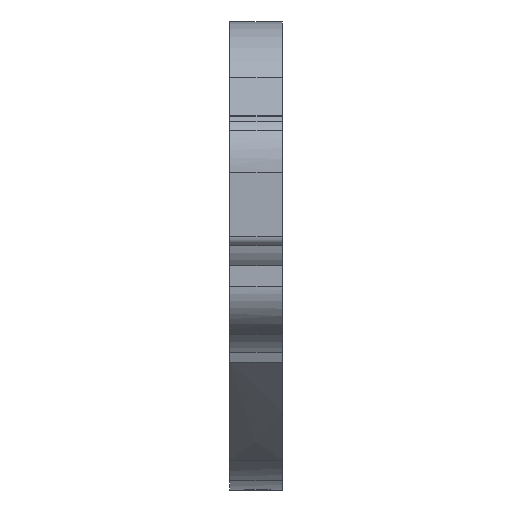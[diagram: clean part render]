
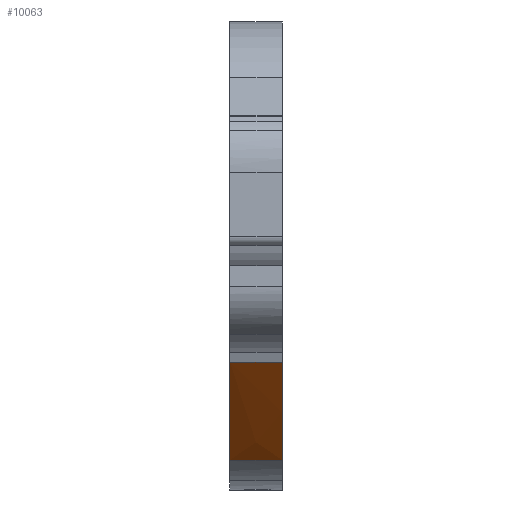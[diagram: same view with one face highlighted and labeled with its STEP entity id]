
A CAD part, left-side view. The second image highlights one B-rep face of the part: STEP entity #10063.
In plain terms, the highlighted free-form (B-spline) face has degree [3, 1] with [12, 2] control points.
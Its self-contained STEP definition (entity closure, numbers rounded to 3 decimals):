
#156 = CARTESIAN_POINT ( 'NONE',  ( 468.715, 7.822, 64.244 ) ) ;
#173 = EDGE_CURVE ( 'NONE', #4534, #8918, #4632, .T. ) ;
#285 = VECTOR ( 'NONE', #8733, 1000. ) ;
#305 = CARTESIAN_POINT ( 'NONE',  ( 471.756, 7.822, 61.751 ) ) ;
#375 = CARTESIAN_POINT ( 'NONE',  ( 471.756, 1.942, 61.751 ) ) ;
#458 = CARTESIAN_POINT ( 'NONE',  ( 471.199, 1.942, 62.152 ) ) ;
#523 = LINE ( 'NONE', #8584, #285 ) ;
#607 = EDGE_CURVE ( 'NONE', #8550, #12472, #523, .T. ) ;
#964 = CARTESIAN_POINT ( 'NONE',  ( 459.489, 7.822, 72.776 ) ) ;
#965 = ORIENTED_EDGE ( 'NONE', *, *, #173, .F. ) ;
#1039 = CARTESIAN_POINT ( 'NONE',  ( 469.091, 7.822, 63.92 ) ) ;
#1071 = CARTESIAN_POINT ( 'NONE',  ( 459.489, 7.822, 72.776 ) ) ;
#1117 = CARTESIAN_POINT ( 'NONE',  ( 459.489, 7.822, 72.776 ) ) ;
#1332 = CARTESIAN_POINT ( 'NONE',  ( 471.756, 1.942, 61.751 ) ) ;
#1563 = CARTESIAN_POINT ( 'NONE',  ( 468.715, 1.942, 64.244 ) ) ;
#1974 = CARTESIAN_POINT ( 'NONE',  ( 471.756, 7.822, 61.751 ) ) ;
#2050 = CARTESIAN_POINT ( 'NONE',  ( 471.611, 7.822, 61.845 ) ) ;
#2208 = CARTESIAN_POINT ( 'NONE',  ( 466.531, 7.822, 66.214 ) ) ;
#2441 = EDGE_CURVE ( 'NONE', #12472, #8918, #8599, .T. ) ;
#2732 = CARTESIAN_POINT ( 'NONE',  ( 471.036, 7.822, 62.28 ) ) ;
#2795 = CARTESIAN_POINT ( 'NONE',  ( 467.548, 1.942, 65.289 ) ) ;
#2809 = CARTESIAN_POINT ( 'NONE',  ( 471.631, 7.822, 61.832 ) ) ;
#2961 = CARTESIAN_POINT ( 'NONE',  ( 471.196, 1.942, 62.154 ) ) ;
#3682 = DIRECTION ( 'NONE',  ( 0., -1., 0. ) ) ;
#3903 = CARTESIAN_POINT ( 'NONE',  ( 471.199, 7.822, 62.152 ) ) ;
#3965 = CARTESIAN_POINT ( 'NONE',  ( 463.493, 1.942, 69.006 ) ) ;
#4344 = CARTESIAN_POINT ( 'NONE',  ( 471.756, 1.942, 61.751 ) ) ;
#4396 = CARTESIAN_POINT ( 'NONE',  ( 469.609, 7.822, 63.468 ) ) ;
#4534 = VERTEX_POINT ( 'NONE', #1071 ) ;
#4632 = LINE ( 'NONE', #1117, #14043 ) ;
#4992 = B_SPLINE_SURFACE_WITH_KNOTS ( 'NONE', 3, 1, ( 
 ( #305, #1332 ),
 ( #2809, #5071 ),
 ( #14653, #14492 ),
 ( #3903, #458 ),
 ( #2732, #7498 ),
 ( #14812, #8440 ),
 ( #6102, #12274 ),
 ( #156, #1563 ),
 ( #9688, #6330 ),
 ( #5156, #9911 ),
 ( #13224, #14732 ),
 ( #7577, #7356 ) ),
 .UNSPECIFIED., .F., .F., .F.,
 ( 4, 2, 2, 2, 2, 4 ),
 ( 2, 2 ),
 ( 0., 0.063, 0.125, 0.25, 0.5, 1. ),
 ( 0., 1. ),
 .UNSPECIFIED. ) ;
#5059 = CARTESIAN_POINT ( 'NONE',  ( 471.611, 1.942, 61.845 ) ) ;
#5071 = CARTESIAN_POINT ( 'NONE',  ( 471.631, 1.942, 61.832 ) ) ;
#5143 = CARTESIAN_POINT ( 'NONE',  ( 466.531, 1.942, 66.214 ) ) ;
#5156 = CARTESIAN_POINT ( 'NONE',  ( 464.094, 7.822, 68.44 ) ) ;
#5381 = CARTESIAN_POINT ( 'NONE',  ( 470.659, 1.942, 62.582 ) ) ;
#5738 = CARTESIAN_POINT ( 'NONE',  ( 470.659, 7.822, 62.582 ) ) ;
#5981 = EDGE_CURVE ( 'NONE', #4534, #8550, #11498, .T. ) ;
#6102 = CARTESIAN_POINT ( 'NONE',  ( 470.091, 7.822, 63.056 ) ) ;
#6319 = CARTESIAN_POINT ( 'NONE',  ( 470.394, 1.942, 62.802 ) ) ;
#6330 = CARTESIAN_POINT ( 'NONE',  ( 467.613, 1.942, 65.231 ) ) ;
#6481 = CARTESIAN_POINT ( 'NONE',  ( 471.756, 7.822, 61.751 ) ) ;
#7356 = CARTESIAN_POINT ( 'NONE',  ( 459.489, 1.942, 72.776 ) ) ;
#7498 = CARTESIAN_POINT ( 'NONE',  ( 471.036, 1.942, 62.28 ) ) ;
#7577 = CARTESIAN_POINT ( 'NONE',  ( 459.489, 7.822, 72.776 ) ) ;
#7802 = CARTESIAN_POINT ( 'NONE',  ( 461.487, 1.942, 70.887 ) ) ;
#7991 = CARTESIAN_POINT ( 'NONE',  ( 463.494, 7.822, 69.005 ) ) ;
#8140 = ORIENTED_EDGE ( 'NONE', *, *, #2441, .T. ) ;
#8440 = CARTESIAN_POINT ( 'NONE',  ( 470.503, 1.942, 62.709 ) ) ;
#8550 = VERTEX_POINT ( 'NONE', #6481 ) ;
#8584 = CARTESIAN_POINT ( 'NONE',  ( 471.756, 7.822, 61.751 ) ) ;
#8599 = B_SPLINE_CURVE_WITH_KNOTS ( 'NONE', 3,
 ( #375, #5059, #13683, #2961, #13447, #5381, #6319, #11079, #14959, #2795, #5143, #3965, #7802, #9826 ),
 .UNSPECIFIED., .F., .F.,
 ( 4, 2, 2, 2, 2, 2, 4 ),
 ( 0., 0.001, 0.001, 0.002, 0.004, 0.008, 0.016 ),
 .UNSPECIFIED. ) ;
#8733 = DIRECTION ( 'NONE',  ( 0., -1., 0. ) ) ;
#8918 = VERTEX_POINT ( 'NONE', #11297 ) ;
#9390 = CARTESIAN_POINT ( 'NONE',  ( 471.472, 7.822, 61.947 ) ) ;
#9688 = CARTESIAN_POINT ( 'NONE',  ( 467.613, 7.822, 65.231 ) ) ;
#9787 = EDGE_LOOP ( 'NONE', ( #8140, #965, #14657, #13012 ) ) ;
#9826 = CARTESIAN_POINT ( 'NONE',  ( 459.489, 1.942, 72.776 ) ) ;
#9911 = CARTESIAN_POINT ( 'NONE',  ( 464.094, 1.942, 68.44 ) ) ;
#10063 = ADVANCED_FACE ( 'NONE', ( #11008 ), #4992, .F. ) ;
#10246 = CARTESIAN_POINT ( 'NONE',  ( 470.395, 7.822, 62.802 ) ) ;
#11008 = FACE_OUTER_BOUND ( 'NONE', #9787, .T. ) ;
#11079 = CARTESIAN_POINT ( 'NONE',  ( 469.608, 1.942, 63.468 ) ) ;
#11297 = CARTESIAN_POINT ( 'NONE',  ( 459.489, 1.942, 72.776 ) ) ;
#11433 = CARTESIAN_POINT ( 'NONE',  ( 461.487, 7.822, 70.887 ) ) ;
#11498 = B_SPLINE_CURVE_WITH_KNOTS ( 'NONE', 3,
 ( #964, #11433, #7991, #2208, #15166, #1039, #4396, #10246, #5738, #13886, #12774, #9390, #2050, #1974 ),
 .UNSPECIFIED., .F., .F.,
 ( 4, 2, 2, 2, 2, 2, 4 ),
 ( 0., 0.008, 0.012, 0.014, 0.015, 0.016, 0.017 ),
 .UNSPECIFIED. ) ;
#12274 = CARTESIAN_POINT ( 'NONE',  ( 470.091, 1.942, 63.056 ) ) ;
#12472 = VERTEX_POINT ( 'NONE', #4344 ) ;
#12774 = CARTESIAN_POINT ( 'NONE',  ( 471.197, 7.822, 62.154 ) ) ;
#13012 = ORIENTED_EDGE ( 'NONE', *, *, #607, .T. ) ;
#13224 = CARTESIAN_POINT ( 'NONE',  ( 461.465, 7.822, 70.908 ) ) ;
#13447 = CARTESIAN_POINT ( 'NONE',  ( 471.061, 1.942, 62.26 ) ) ;
#13683 = CARTESIAN_POINT ( 'NONE',  ( 471.471, 1.942, 61.947 ) ) ;
#13886 = CARTESIAN_POINT ( 'NONE',  ( 471.062, 7.822, 62.26 ) ) ;
#14043 = VECTOR ( 'NONE', #3682, 1000. ) ;
#14492 = CARTESIAN_POINT ( 'NONE',  ( 471.497, 1.942, 61.928 ) ) ;
#14653 = CARTESIAN_POINT ( 'NONE',  ( 471.497, 7.822, 61.928 ) ) ;
#14657 = ORIENTED_EDGE ( 'NONE', *, *, #5981, .T. ) ;
#14732 = CARTESIAN_POINT ( 'NONE',  ( 461.465, 1.942, 70.908 ) ) ;
#14812 = CARTESIAN_POINT ( 'NONE',  ( 470.503, 7.822, 62.709 ) ) ;
#14959 = CARTESIAN_POINT ( 'NONE',  ( 469.091, 1.942, 63.921 ) ) ;
#15166 = CARTESIAN_POINT ( 'NONE',  ( 467.548, 7.822, 65.288 ) ) ;
